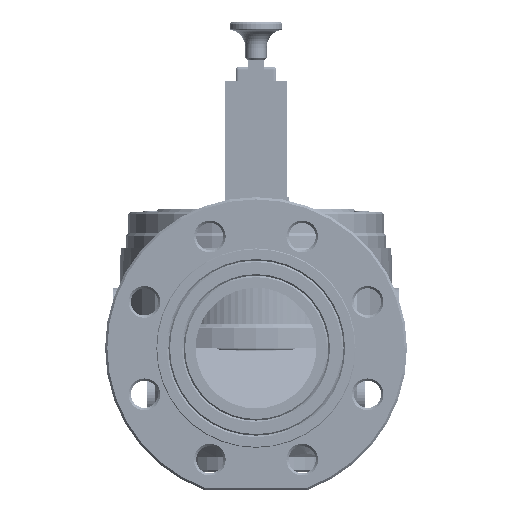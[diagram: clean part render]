
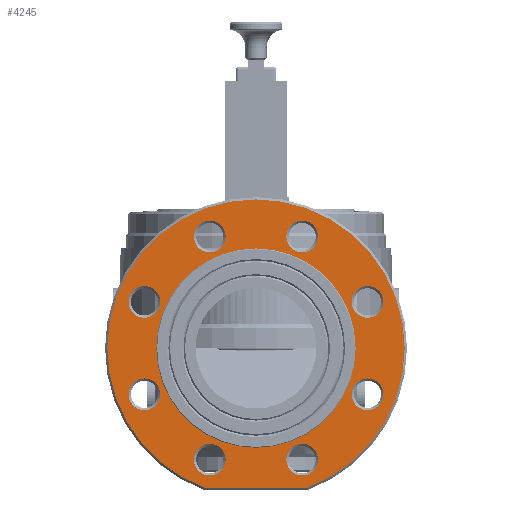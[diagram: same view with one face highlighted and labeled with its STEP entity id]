
A CAD part, front view. The second image highlights one B-rep face of the part: STEP entity #4245.
In plain terms, the highlighted planar face has unit normal (0, -1, 0).
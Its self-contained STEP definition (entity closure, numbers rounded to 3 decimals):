
#4245 = ADVANCED_FACE( '', ( #6098, #6099, #6100, #6101, #6102, #6103, #6104, #6105, #6106, #6107 ), #6108, .F. );
#6098 = FACE_OUTER_BOUND( '', #9294, .T. );
#6099 = FACE_BOUND( '', #9295, .T. );
#6100 = FACE_BOUND( '', #9296, .T. );
#6101 = FACE_BOUND( '', #9297, .T. );
#6102 = FACE_BOUND( '', #9298, .T. );
#6103 = FACE_BOUND( '', #9299, .T. );
#6104 = FACE_BOUND( '', #9300, .T. );
#6105 = FACE_BOUND( '', #9301, .T. );
#6106 = FACE_BOUND( '', #9302, .T. );
#6107 = FACE_BOUND( '', #9303, .T. );
#6108 = PLANE( '', #9304 );
#9294 = EDGE_LOOP( '', ( #17558, #17559 ) );
#9295 = EDGE_LOOP( '', ( #17560 ) );
#9296 = EDGE_LOOP( '', ( #17561 ) );
#9297 = EDGE_LOOP( '', ( #17562 ) );
#9298 = EDGE_LOOP( '', ( #17563 ) );
#9299 = EDGE_LOOP( '', ( #17564 ) );
#9300 = EDGE_LOOP( '', ( #17565 ) );
#9301 = EDGE_LOOP( '', ( #17566 ) );
#9302 = EDGE_LOOP( '', ( #17567 ) );
#9303 = EDGE_LOOP( '', ( #17568 ) );
#9304 = AXIS2_PLACEMENT_3D( '', #17569, #17570, #17571 );
#17558 = ORIENTED_EDGE( '', *, *, #23251, .T. );
#17559 = ORIENTED_EDGE( '', *, *, #23248, .T. );
#17560 = ORIENTED_EDGE( '', *, *, #23335, .T. );
#17561 = ORIENTED_EDGE( '', *, *, #23333, .T. );
#17562 = ORIENTED_EDGE( '', *, *, #23331, .T. );
#17563 = ORIENTED_EDGE( '', *, *, #23329, .T. );
#17564 = ORIENTED_EDGE( '', *, *, #23327, .T. );
#17565 = ORIENTED_EDGE( '', *, *, #23325, .T. );
#17566 = ORIENTED_EDGE( '', *, *, #23323, .T. );
#17567 = ORIENTED_EDGE( '', *, *, #23321, .T. );
#17568 = ORIENTED_EDGE( '', *, *, #23370, .F. );
#17569 = CARTESIAN_POINT( '', ( 0., -153., 66. ) );
#17570 = DIRECTION( '', ( 0., 1., 0. ) );
#17571 = DIRECTION( '', ( 0., 0., 1. ) );
#23248 = EDGE_CURVE( '', #26036, #26034, #26037, .T. );
#23251 = EDGE_CURVE( '', #26034, #26036, #26041, .F. );
#23321 = EDGE_CURVE( '', #26177, #26177, #26178, .T. );
#23323 = EDGE_CURVE( '', #26181, #26181, #26182, .T. );
#23325 = EDGE_CURVE( '', #26185, #26185, #26186, .T. );
#23327 = EDGE_CURVE( '', #26189, #26189, #26190, .T. );
#23329 = EDGE_CURVE( '', #26193, #26193, #26194, .T. );
#23331 = EDGE_CURVE( '', #26197, #26197, #26198, .T. );
#23333 = EDGE_CURVE( '', #26201, #26201, #26202, .T. );
#23335 = EDGE_CURVE( '', #26205, #26205, #26206, .T. );
#23370 = EDGE_CURVE( '', #26271, #26271, #26272, .T. );
#26034 = VERTEX_POINT( '', #30563 );
#26036 = VERTEX_POINT( '', #30568 );
#26037 = LINE( '', #30569, #30570 );
#26041 = CIRCLE( '', #30578, 98.5 );
#26177 = VERTEX_POINT( '', #30722 );
#26178 = CIRCLE( '', #30723, 10.5 );
#26181 = VERTEX_POINT( '', #30726 );
#26182 = CIRCLE( '', #30727, 10.5 );
#26185 = VERTEX_POINT( '', #30730 );
#26186 = CIRCLE( '', #30731, 10.5 );
#26189 = VERTEX_POINT( '', #30734 );
#26190 = CIRCLE( '', #30735, 10.5 );
#26193 = VERTEX_POINT( '', #30738 );
#26194 = CIRCLE( '', #30739, 10.5 );
#26197 = VERTEX_POINT( '', #30742 );
#26198 = CIRCLE( '', #30743, 10.5 );
#26201 = VERTEX_POINT( '', #30746 );
#26202 = CIRCLE( '', #30747, 10.5 );
#26205 = VERTEX_POINT( '', #30750 );
#26206 = CIRCLE( '', #30751, 10.5 );
#26271 = VERTEX_POINT( '', #30901 );
#26272 = CIRCLE( '', #30902, 66. );
#30563 = CARTESIAN_POINT( '', ( 33.853, -153., -92.5 ) );
#30568 = CARTESIAN_POINT( '', ( -33.853, -153., -92.5 ) );
#30569 = CARTESIAN_POINT( '', ( 0., -153., -92.5 ) );
#30570 = VECTOR( '', #37437, 1000. );
#30578 = AXIS2_PLACEMENT_3D( '', #37439, #37440, #37441 );
#30722 = CARTESIAN_POINT( '', ( 73.91, -153., 41.115 ) );
#30723 = AXIS2_PLACEMENT_3D( '', #37639, #37640, #37641 );
#30726 = CARTESIAN_POINT( '', ( 30.615, -153., 84.41 ) );
#30727 = AXIS2_PLACEMENT_3D( '', #37645, #37646, #37647 );
#30730 = CARTESIAN_POINT( '', ( -30.615, -153., 84.41 ) );
#30731 = AXIS2_PLACEMENT_3D( '', #37651, #37652, #37653 );
#30734 = CARTESIAN_POINT( '', ( -73.91, -153., 41.115 ) );
#30735 = AXIS2_PLACEMENT_3D( '', #37657, #37658, #37659 );
#30738 = CARTESIAN_POINT( '', ( -73.91, -153., -20.115 ) );
#30739 = AXIS2_PLACEMENT_3D( '', #37663, #37664, #37665 );
#30742 = CARTESIAN_POINT( '', ( -30.615, -153., -63.41 ) );
#30743 = AXIS2_PLACEMENT_3D( '', #37669, #37670, #37671 );
#30746 = CARTESIAN_POINT( '', ( 30.615, -153., -63.41 ) );
#30747 = AXIS2_PLACEMENT_3D( '', #37675, #37676, #37677 );
#30750 = CARTESIAN_POINT( '', ( 73.91, -153., -20.115 ) );
#30751 = AXIS2_PLACEMENT_3D( '', #37681, #37682, #37683 );
#30901 = CARTESIAN_POINT( '', ( 0., -153., -66. ) );
#30902 = AXIS2_PLACEMENT_3D( '', #37767, #37768, #37769 );
#37437 = DIRECTION( '', ( 1., 0., 0. ) );
#37439 = CARTESIAN_POINT( '', ( 0., -153., 0. ) );
#37440 = DIRECTION( '', ( 0., 1., 0. ) );
#37441 = DIRECTION( '', ( 0., 0., 1. ) );
#37639 = CARTESIAN_POINT( '', ( 73.91, -153., 30.615 ) );
#37640 = DIRECTION( '', ( 0., 1., 0. ) );
#37641 = DIRECTION( '', ( 0., 0., 1. ) );
#37645 = CARTESIAN_POINT( '', ( 30.615, -153., 73.91 ) );
#37646 = DIRECTION( '', ( 0., 1., 0. ) );
#37647 = DIRECTION( '', ( 0., 0., 1. ) );
#37651 = CARTESIAN_POINT( '', ( -30.615, -153., 73.91 ) );
#37652 = DIRECTION( '', ( 0., 1., 0. ) );
#37653 = DIRECTION( '', ( 0., 0., 1. ) );
#37657 = CARTESIAN_POINT( '', ( -73.91, -153., 30.615 ) );
#37658 = DIRECTION( '', ( 0., 1., 0. ) );
#37659 = DIRECTION( '', ( 0., 0., 1. ) );
#37663 = CARTESIAN_POINT( '', ( -73.91, -153., -30.615 ) );
#37664 = DIRECTION( '', ( 0., 1., 0. ) );
#37665 = DIRECTION( '', ( 0., 0., 1. ) );
#37669 = CARTESIAN_POINT( '', ( -30.615, -153., -73.91 ) );
#37670 = DIRECTION( '', ( 0., 1., 0. ) );
#37671 = DIRECTION( '', ( 0., 0., 1. ) );
#37675 = CARTESIAN_POINT( '', ( 30.615, -153., -73.91 ) );
#37676 = DIRECTION( '', ( 0., 1., 0. ) );
#37677 = DIRECTION( '', ( 0., 0., 1. ) );
#37681 = CARTESIAN_POINT( '', ( 73.91, -153., -30.615 ) );
#37682 = DIRECTION( '', ( 0., 1., 0. ) );
#37683 = DIRECTION( '', ( 0., 0., 1. ) );
#37767 = CARTESIAN_POINT( '', ( 0., -153., 0. ) );
#37768 = DIRECTION( '', ( 0., -1., 0. ) );
#37769 = DIRECTION( '', ( 0., 0., -1. ) );
